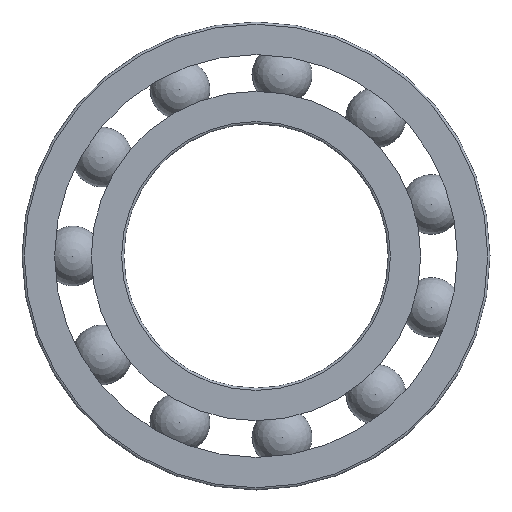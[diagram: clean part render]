
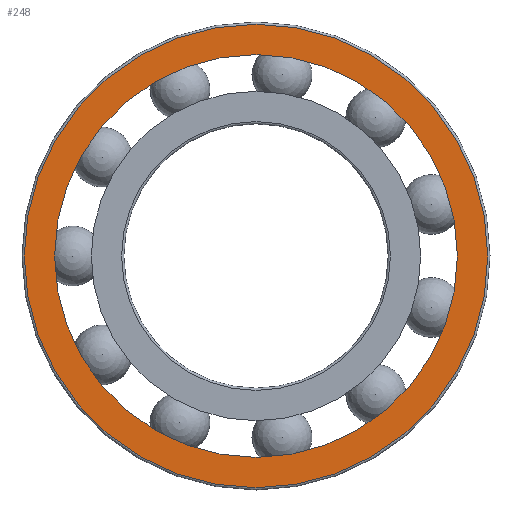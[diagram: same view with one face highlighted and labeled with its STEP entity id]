
A CAD part, left-side view. The second image highlights one B-rep face of the part: STEP entity #248.
In plain terms, the highlighted planar face has unit normal (-1, 0, 0).
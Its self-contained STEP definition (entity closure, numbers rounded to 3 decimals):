
#106=ORIENTED_EDGE('',*,*,#130,.T.);
#107=ORIENTED_EDGE('',*,*,#131,.F.);
#130=EDGE_CURVE('',#146,#146,#163,.T.);
#131=EDGE_CURVE('',#147,#147,#164,.T.);
#146=VERTEX_POINT('',#462);
#147=VERTEX_POINT('',#464);
#163=CIRCLE('',#312,26.68);
#164=CIRCLE('',#313,30.7);
#187=EDGE_LOOP('',(#106));
#188=EDGE_LOOP('',(#107));
#219=FACE_BOUND('',#187,.T.);
#220=FACE_BOUND('',#188,.T.);
#238=PLANE('',#311);
#248=ADVANCED_FACE('',(#219,#220),#238,.T.);
#311=AXIS2_PLACEMENT_3D('',#460,#376,#377);
#312=AXIS2_PLACEMENT_3D('',#461,#378,#379);
#313=AXIS2_PLACEMENT_3D('',#463,#380,#381);
#376=DIRECTION('',(-1.,0.,0.));
#377=DIRECTION('',(0.,0.,1.));
#378=DIRECTION('',(1.,0.,0.));
#379=DIRECTION('',(0.,0.,-1.));
#380=DIRECTION('',(1.,0.,0.));
#381=DIRECTION('',(0.,0.,-1.));
#460=CARTESIAN_POINT('',(0.,30.7,0.));
#461=CARTESIAN_POINT('',(0.,0.,0.));
#462=CARTESIAN_POINT('',(0.,0.,-26.68));
#463=CARTESIAN_POINT('',(0.,0.,0.));
#464=CARTESIAN_POINT('',(0.,0.,-30.7));
